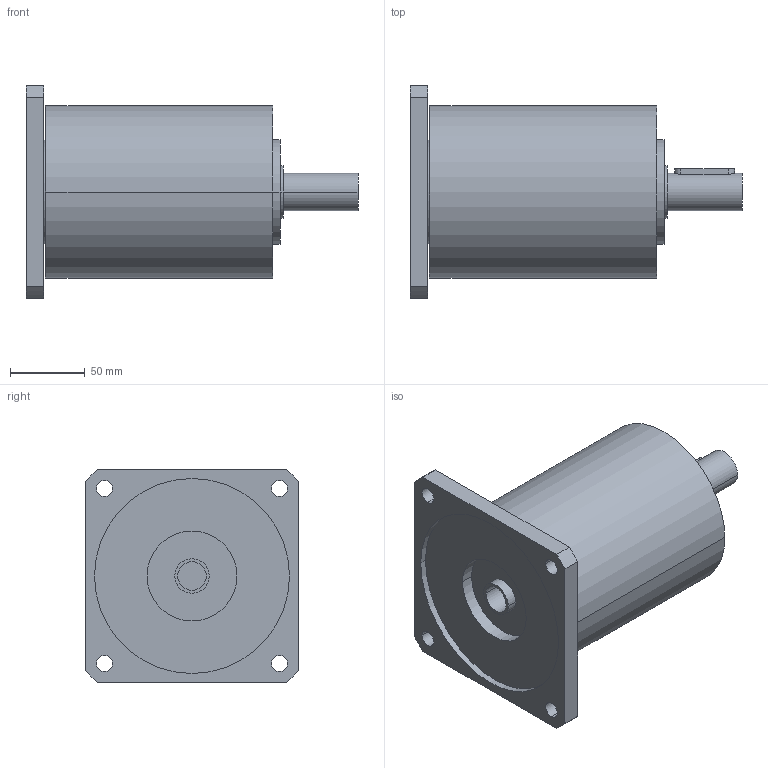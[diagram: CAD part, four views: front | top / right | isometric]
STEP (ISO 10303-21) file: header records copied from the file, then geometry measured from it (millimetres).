
FILE_DESCRIPTION(('CoCreate Modeling STEP Export'),'2;1');
FILE_NAME('GPR125_ig-9-12-16-20-28-35_25_B14_19_P08.stp','2014-08-26T14:10:40',(''),(''),'CoCreate Modeling STEP processor for AP214 (Solid Model)','CoCreate Modeling 16.00C 25-Feb-2009 (C) Parametric Technology GmbH','');
FILE_SCHEMA(('AUTOMOTIVE_DESIGN { 1 0 10303 214 1 1 1 1 }'));
Length unit declared in the file: millimetre
Products named in the file (2): GPR125_ig-9-12-16-20-28-35_25_B14_19_P08
Assembly tree (1 placements, depth 2):
  GPR125_ig-9-12-16-20-28-35_25_B14_19_P08
    GPR125_ig-9-12-16-20-28-35_25_B14_19_P08
Bounding box: 221.4 x 142 x 142 mm (x, y, z)
Volume: 1762554.8 mm3; surface area: 129872.2 mm2
Topology: 1 solids, 1 shells, 68 faces, 188 edges, 134 vertices
Faces by surface type: cylinder 42, plane 22, cone 4
Entity records: 1928 total; most frequent: ORIENTED_EDGE 372, CARTESIAN_POINT 363, DIRECTION 258, EDGE_CURVE 186, VERTEX_POINT 134, AXIS2_PLACEMENT_3D 97, EDGE_LOOP 90, FACE_OUTER_BOUND 68
